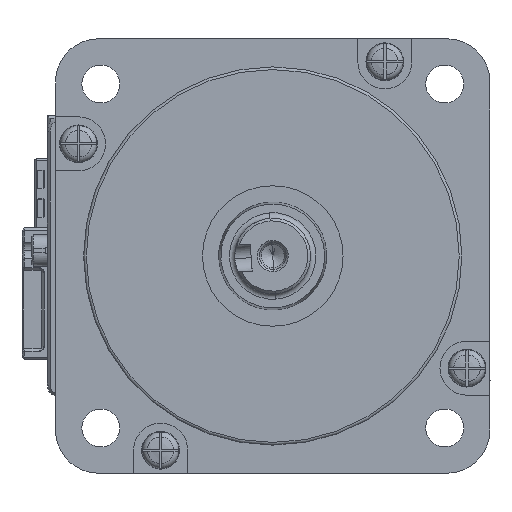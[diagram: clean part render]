
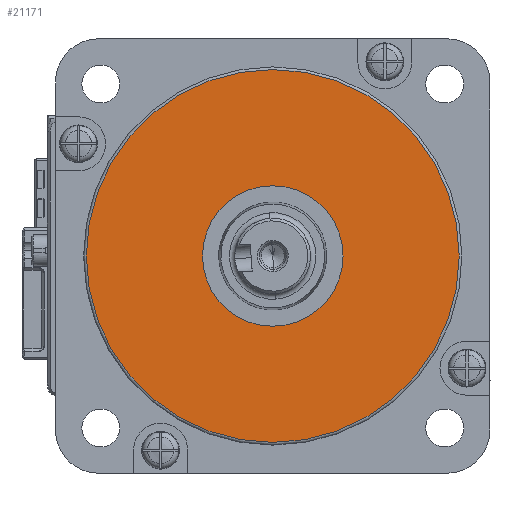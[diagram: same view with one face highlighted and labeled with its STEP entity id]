
A CAD part, left-side view. The second image highlights one B-rep face of the part: STEP entity #21171.
In plain terms, the highlighted planar face has unit normal (-1, 0, 0) as drawn and (0, 0, -1) by its records, which use the part's own axes.
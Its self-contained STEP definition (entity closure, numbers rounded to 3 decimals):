
#2361 = VERTEX_POINT ( 'NONE', #33096 ) ;
#3742 = FACE_OUTER_BOUND ( 'NONE', #25171, .T. ) ;
#4642 = AXIS2_PLACEMENT_3D ( 'NONE', #28335, #48458, #23730 ) ;
#5127 = DIRECTION ( 'NONE',  ( 0., 0., -1. ) ) ;
#5704 = EDGE_CURVE ( 'NONE', #2361, #2361, #33152, .T. ) ;
#6000 = AXIS2_PLACEMENT_3D ( 'NONE', #20687, #5127, #40802 ) ;
#10949 = AXIS2_PLACEMENT_3D ( 'NONE', #48967, #43375, #58867 ) ;
#18632 = PLANE ( 'NONE',  #10949 ) ;
#20687 = CARTESIAN_POINT ( 'NONE',  ( 0., 0., 0. ) ) ;
#20728 = ORIENTED_EDGE ( 'NONE', *, *, #57807, .T. ) ;
#21171 = ADVANCED_FACE ( 'NONE', ( #3742, #54557 ), #18632, .F. ) ;
#23730 = DIRECTION ( 'NONE',  ( 1., 0., 0. ) ) ;
#25171 = EDGE_LOOP ( 'NONE', ( #20728 ) ) ;
#26748 = EDGE_LOOP ( 'NONE', ( #58736 ) ) ;
#28121 = VERTEX_POINT ( 'NONE', #39642 ) ;
#28335 = CARTESIAN_POINT ( 'NONE',  ( 0., 0., 0. ) ) ;
#33096 = CARTESIAN_POINT ( 'NONE',  ( 13., 0., 0. ) ) ;
#33152 = CIRCLE ( 'NONE', #4642, 13. ) ;
#39642 = CARTESIAN_POINT ( 'NONE',  ( 34.499, 0., 0. ) ) ;
#40802 = DIRECTION ( 'NONE',  ( 1., 0., 0. ) ) ;
#40813 = CIRCLE ( 'NONE', #6000, 34.499 ) ;
#43375 = DIRECTION ( 'NONE',  ( 0., 0., 1. ) ) ;
#48458 = DIRECTION ( 'NONE',  ( 0., 0., 1. ) ) ;
#48967 = CARTESIAN_POINT ( 'NONE',  ( 0., 0., 0. ) ) ;
#54557 = FACE_BOUND ( 'NONE', #26748, .T. ) ;
#57807 = EDGE_CURVE ( 'NONE', #28121, #28121, #40813, .T. ) ;
#58736 = ORIENTED_EDGE ( 'NONE', *, *, #5704, .T. ) ;
#58867 = DIRECTION ( 'NONE',  ( 1., 0., 0. ) ) ;
